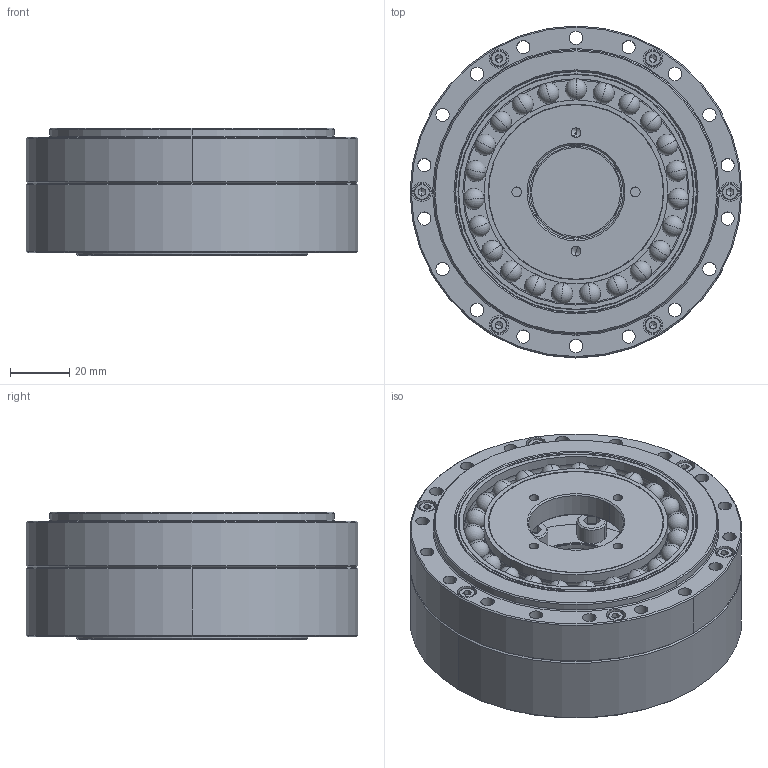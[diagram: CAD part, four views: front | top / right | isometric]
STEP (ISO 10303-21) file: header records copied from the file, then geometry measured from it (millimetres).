
FILE_DESCRIPTION (( 'STEP AP203' ), '1' );
FILE_NAME ('BCD-32-XXX-U-¢ñ.STEP', '2019-01-15T02:42:52', ( 'User' ), ( 'China' ), 'SwSTEP 2.0', 'SolidWorks 2015', '' );
FILE_SCHEMA (( 'CONFIG_CONTROL_DESIGN' ));
Length unit declared in the file: millimetre
Products named in the file (1): BCD-32-XXX-U-ｉ
Bounding box: 112 x 112 x 43 mm (x, y, z)
Surface area: 71515.8 mm2 (no closed solid volume)
Topology: 0 solids, 49 shells, 385 faces, 1151 edges, 755 vertices
Faces by surface type: cylinder 160, plane 87, cone 82, sphere 46, torus 10
Entity records: 12139 total; most frequent: DIRECTION 2336, CARTESIAN_POINT 2084, ORIENTED_EDGE 1710, EDGE_CURVE 1012, AXIS2_PLACEMENT_3D 938, VERTEX_POINT 686, CIRCLE 552, EDGE_LOOP 501
